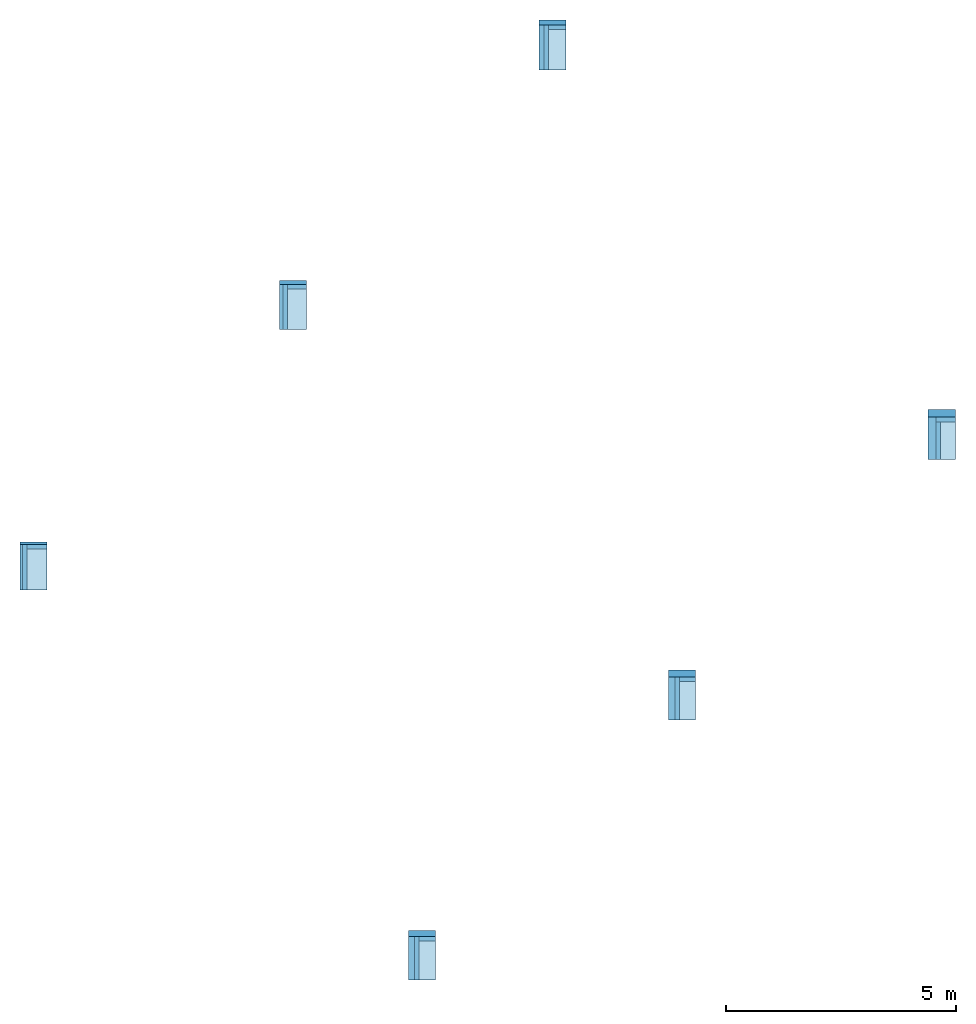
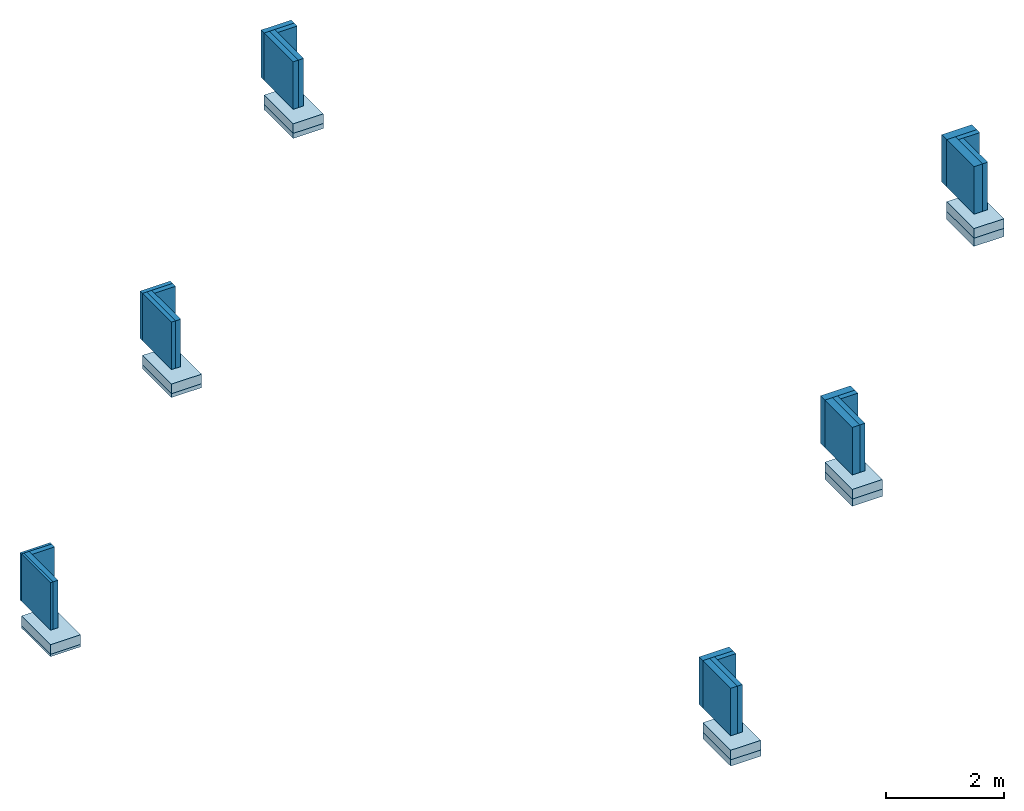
# One storey: 24 walls, 12 slabs.
"""IFC2X3 building model written with IfcOpenShell, lengths in millimetres."""

from ifc_helpers import new_model, entity, si_unit, converted_unit, derived_unit, direction, frame, frame_2d, origin, origin_2d_with_axis, place, context, subcontext, project, spatial, rectangle, extrude, material, layer, layer_set, layer_usage, type_object, element, save


model = new_model("IFC2X3")

# Units and contexts
model_context = context("Model", 3, precision=0.01, world=origin(), true_north=direction((6.12303176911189e-17, 1.0)))
context_of_model = context(None, 3, precision=0.01, world=origin(), true_north=direction((6.12303176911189e-17, 1.0)))
body_context = subcontext(model_context, "Body", "Model", "MODEL_VIEW")
ifc_project = project(units=[si_unit("LENGTHUNIT", "METRE", prefix="MILLI"), si_unit("AREAUNIT", "SQUARE_METRE"), si_unit("VOLUMEUNIT", "CUBIC_METRE"), converted_unit("PLANEANGLEUNIT", "DEGREE", entity("IfcRatioMeasure", 0.0174532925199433), si_unit("PLANEANGLEUNIT", "RADIAN"), dimensions=[0, 0, 0, 0, 0, 0, 0]), si_unit("MASSUNIT", "GRAM", prefix="KILO"), si_unit("TIMEUNIT", "SECOND"), si_unit("FREQUENCYUNIT", "HERTZ"), si_unit("THERMODYNAMICTEMPERATUREUNIT", "DEGREE_CELSIUS"), derived_unit("THERMALTRANSMITTANCEUNIT", [(si_unit("MASSUNIT", "GRAM", prefix="KILO"), 1), (si_unit("THERMODYNAMICTEMPERATUREUNIT", "KELVIN"), -1), (si_unit("TIMEUNIT", "SECOND"), -3)]), derived_unit("VOLUMETRICFLOWRATEUNIT", [(si_unit("LENGTHUNIT", "METRE"), 3), (si_unit("TIMEUNIT", "SECOND"), -1)]), si_unit("ELECTRICCURRENTUNIT", "AMPERE"), si_unit("ELECTRICVOLTAGEUNIT", "VOLT"), si_unit("POWERUNIT", "WATT"), si_unit("FORCEUNIT", "NEWTON", prefix="KILO"), si_unit("ILLUMINANCEUNIT", "LUX"), si_unit("LUMINOUSFLUXUNIT", "LUMEN"), si_unit("LUMINOUSINTENSITYUNIT", "CANDELA"), derived_unit("USERDEFINED", [(si_unit("MASSUNIT", "GRAM", prefix="KILO"), -1), (si_unit("LENGTHUNIT", "METRE"), -2), (si_unit("TIMEUNIT", "SECOND"), 3), (si_unit("LUMINOUSFLUXUNIT", "LUMEN"), 1)]), derived_unit("LINEARVELOCITYUNIT", [(si_unit("LENGTHUNIT", "METRE"), 1), (si_unit("TIMEUNIT", "SECOND"), -1)]), si_unit("PRESSUREUNIT", "PASCAL"), derived_unit("USERDEFINED", [(si_unit("LENGTHUNIT", "METRE"), -2), (si_unit("MASSUNIT", "GRAM", prefix="KILO"), 1), (si_unit("TIMEUNIT", "SECOND"), -2)])], contexts=[model_context, context_of_model])

# Site, building, storey
site_placement = place(None, origin())
site = spatial("IfcSite", under=ifc_project, at=site_placement, Name="Default", CompositionType="ELEMENT")
building_placement = place(site_placement, origin())
building = spatial("IfcBuilding", under=site, at=building_placement, CompositionType="ELEMENT")
storey_placement = place(building_placement, origin())
storey = spatial("IfcBuildingStorey", under=building, at=storey_placement, Name="00 begane grond", CompositionType="ELEMENT", Elevation=-2.77069864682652e-11)

# Slabs
ifc_material_1 = material(Name="Heraklith® | Herafoam - PIR (0,0215)")
ifc_layer_1 = layer(ifc_material_1, 40.0)
ifc_material_2 = material(Name="Heraklith® | Herafoam - Houtwollaag - 985x590mm")
ifc_layer_2 = layer(ifc_material_2, 10.0)
ifc_layer_set_1 = layer_set([ifc_layer_1, ifc_layer_2], Name="Floor:NLRS_23_FL_Heraklith Herafoam 50x985x590mm")
ifc_layer_usage_1 = layer_usage(ifc_layer_set_1, "AXIS3", "POSITIVE", 0.0)
slab_1_placement = place(storey_placement, origin())
element("IfcSlab", 1, at=slab_1_placement, inside=storey, material=ifc_layer_usage_1, Name="Floor:NLRS_23_FL_Heraklith Herafoam 50x985x590mm", ObjectType="Floor:NLRS_23_FL_Heraklith Herafoam 50x985x590mm", PredefinedType="FLOOR", context=body_context, shape_type="SweptSolid", body=[
    extrude(rectangle(XDim=985.0, YDim=590.0, at=origin_2d_with_axis()), frame((295.0, 492.499999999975, -500.0), z_axis=(0.0, 0.0, -1.0), x_axis=(0.0, 1.0, 0.0)), (0.0, 0.0, 1.0), 50.0),
])
ifc_material_3 = material(Name="Heraklith® | Herafoam - PIR (0,0222)")
ifc_layer_3 = layer(ifc_material_3, 30.0)
ifc_material_4 = material(Name="Heraklith® | Herafoam - PIR (0,0275)")
ifc_layer_4 = layer(ifc_material_4, 40.0)
ifc_layer_5 = layer(ifc_material_2, 10.0)
ifc_layer_set_2 = layer_set([ifc_layer_3, ifc_layer_4, ifc_layer_5], Name="Floor:NLRS_23_FL_Heraklith Herafoam 80x985x590mm")
ifc_layer_usage_2 = layer_usage(ifc_layer_set_2, "AXIS3", "POSITIVE", 0.0)
slab_2_placement = place(storey_placement, origin())
element("IfcSlab", 2, at=slab_2_placement, inside=storey, material=ifc_layer_usage_2, Name="Floor:NLRS_23_FL_Heraklith Herafoam 80x985x590mm", ObjectType="Floor:NLRS_23_FL_Heraklith Herafoam 80x985x590mm", PredefinedType="FLOOR", context=body_context, shape_type="SweptSolid", body=[
    extrude(rectangle(XDim=985.0, YDim=589.999999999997, at=frame_2d((5.6843418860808e-13, 1.08002495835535e-12), x_axis=(1.0, 0.0))), frame((5936.85424949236, 6149.35424949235, -500.0), z_axis=(0.0, 0.0, -1.0), x_axis=(0.0, 1.0, 0.0)), (0.0, 0.0, 1.0), 80.0),
])
ifc_layer_6 = layer(ifc_material_1, 55.0)
ifc_layer_7 = layer(ifc_material_4, 40.0)
ifc_layer_8 = layer(ifc_material_2, 10.0)
ifc_layer_set_3 = layer_set([ifc_layer_6, ifc_layer_7, ifc_layer_8], Name="Floor:NLRS_23_FL_Heraklith Herafoam 105x985x590mm")
ifc_layer_usage_3 = layer_usage(ifc_layer_set_3, "AXIS3", "POSITIVE", 0.0)
slab_3_placement = place(storey_placement, origin())
element("IfcSlab", 3, at=slab_3_placement, inside=storey, material=ifc_layer_usage_3, Name="Floor:NLRS_23_FL_Heraklith Herafoam 105x985x590mm", ObjectType="Floor:NLRS_23_FL_Heraklith Herafoam 105x985x590mm", PredefinedType="FLOOR", context=body_context, shape_type="SweptSolid", body=[
    extrude(rectangle(XDim=985.000000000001, YDim=590.0, at=origin_2d_with_axis()), frame((11581.2084989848, 11793.7084989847, -500.0), z_axis=(0.0, 0.0, -1.0), x_axis=(0.0, 1.0, 0.0)), (0.0, 0.0, 1.0), 105.0),
])
ifc_layer_9 = layer(ifc_material_1, 80.0)
ifc_layer_10 = layer(ifc_material_4, 40.0)
ifc_layer_11 = layer(ifc_material_2, 10.0)
ifc_layer_set_4 = layer_set([ifc_layer_9, ifc_layer_10, ifc_layer_11], Name="Floor:NLRS_23_FL_Heraklith Herafoam 130x985x590mm")
ifc_layer_usage_4 = layer_usage(ifc_layer_set_4, "AXIS3", "POSITIVE", 0.0)
slab_4_placement = place(storey_placement, origin())
element("IfcSlab", 4, at=slab_4_placement, inside=storey, material=ifc_layer_usage_4, Name="Floor:NLRS_23_FL_Heraklith Herafoam 130x985x590mm", ObjectType="Floor:NLRS_23_FL_Heraklith Herafoam 130x985x590mm", PredefinedType="FLOOR", context=body_context, shape_type="SweptSolid", body=[
    extrude(rectangle(XDim=945.00000000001, YDim=590.0, at=origin_2d_with_axis()), frame((8740.28137423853, -8012.78137423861, -500.0), z_axis=(0.0, 0.0, -1.0), x_axis=(0.0, 1.0, 0.0)), (0.0, 0.0, 1.0), 130.0),
])
ifc_layer_12 = layer(ifc_material_1, 100.0)
ifc_layer_13 = layer(ifc_material_4, 40.0)
ifc_layer_14 = layer(ifc_material_2, 10.0)
ifc_layer_set_5 = layer_set([ifc_layer_12, ifc_layer_13, ifc_layer_14], Name="Floor:NLRS_23_FL_Heraklith Herafoam 150x985x590mm")
ifc_layer_usage_5 = layer_usage(ifc_layer_set_5, "AXIS3", "POSITIVE", 0.0)
slab_5_placement = place(storey_placement, origin())
element("IfcSlab", 5, at=slab_5_placement, inside=storey, material=ifc_layer_usage_5, Name="Floor:NLRS_23_FL_Heraklith Herafoam 150x985x590mm", ObjectType="Floor:NLRS_23_FL_Heraklith Herafoam 150x985x590mm", PredefinedType="FLOOR", context=body_context, shape_type="SweptSolid", body=[
    extrude(rectangle(XDim=935.000000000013, YDim=590.0, at=frame_2d((1.13686837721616e-13, -2.1600499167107e-12), x_axis=(1.0, 0.0))), frame((14392.1356237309, -2360.92712474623, -500.0), z_axis=(0.0, 0.0, -1.0), x_axis=(0.0, 1.0, 0.0)), (0.0, 0.0, 1.0), 150.0),
])
ifc_layer_15 = layer(ifc_material_1, 120.0)
ifc_layer_16 = layer(ifc_material_4, 40.0)
ifc_layer_17 = layer(ifc_material_2, 10.0)
ifc_layer_set_6 = layer_set([ifc_layer_15, ifc_layer_16, ifc_layer_17], Name="Floor:NLRS_23_FL_Heraklith Herafoam 170x985x590mm")
ifc_layer_usage_6 = layer_usage(ifc_layer_set_6, "AXIS3", "POSITIVE", 0.0)
slab_6_placement = place(storey_placement, origin())
element("IfcSlab", 6, at=slab_6_placement, inside=storey, material=ifc_layer_usage_6, Name="Floor:NLRS_23_FL_Heraklith Herafoam 170x985x590mm", ObjectType="Floor:NLRS_23_FL_Heraklith Herafoam 170x985x590mm", PredefinedType="FLOOR", context=body_context, shape_type="SweptSolid", body=[
    extrude(rectangle(XDim=925.000000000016, YDim=589.999999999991, at=frame_2d((0.0, 2.1600499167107e-12), x_axis=(1.0, 0.0))), frame((20043.9898732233, 3290.92712474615, -500.0), z_axis=(0.0, 0.0, -1.0), x_axis=(0.0, 1.0, 0.0)), (0.0, 0.0, 1.0), 170.0),
])
ifc_material_5 = material(Name="Concrete, Precast Panels")
ifc_layer_18 = layer(ifc_material_5, 200.0)
ifc_layer_set_7 = layer_set([ifc_layer_18], Name="Floor:Generic 200mm")
ifc_layer_usage_7 = layer_usage(ifc_layer_set_7, "AXIS3", "POSITIVE", 0.0)
slab_7_placement = place(storey_placement, origin())
element("IfcSlab", 7, at=slab_7_placement, inside=storey, material=ifc_layer_usage_7, Name="Floor:Generic 200mm", ObjectType="Floor:Generic 200mm", PredefinedType="FLOOR", context=body_context, shape_type="SweptSolid", body=[
    extrude(rectangle(XDim=985.000000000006, YDim=590.0, at=origin_2d_with_axis()), frame((295.0, 492.499999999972, -300.0), z_axis=(0.0, 0.0, -1.0), x_axis=(0.0, 1.0, 0.0)), (0.0, 0.0, 1.0), 200.0),
])
ifc_layer_usage_8 = layer_usage(ifc_layer_set_7, "AXIS3", "POSITIVE", 0.0)
slab_8_placement = place(storey_placement, origin())
element("IfcSlab", 8, at=slab_8_placement, inside=storey, material=ifc_layer_usage_8, Name="Floor:Generic 200mm", ObjectType="Floor:Generic 200mm", PredefinedType="FLOOR", context=body_context, shape_type="SweptSolid", body=[
    extrude(rectangle(XDim=985.0, YDim=589.999999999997, at=frame_2d((5.6843418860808e-13, -5.40012479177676e-13), x_axis=(1.0, 0.0))), frame((5936.85424949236, 6149.35424949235, -300.0), z_axis=(0.0, 0.0, -1.0), x_axis=(0.0, 1.0, 0.0)), (0.0, 0.0, 1.0), 200.0),
])
ifc_layer_usage_9 = layer_usage(ifc_layer_set_7, "AXIS3", "POSITIVE", 0.0)
slab_9_placement = place(storey_placement, origin())
element("IfcSlab", 9, at=slab_9_placement, inside=storey, material=ifc_layer_usage_9, Name="Floor:Generic 200mm", ObjectType="Floor:Generic 200mm", PredefinedType="FLOOR", context=body_context, shape_type="SweptSolid", body=[
    extrude(rectangle(XDim=985.000000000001, YDim=590.0, at=origin_2d_with_axis()), frame((11581.2084989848, 11793.7084989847, -300.0), z_axis=(0.0, 0.0, -1.0), x_axis=(0.0, 1.0, 0.0)), (0.0, 0.0, 1.0), 200.0),
])
ifc_layer_usage_10 = layer_usage(ifc_layer_set_7, "AXIS3", "POSITIVE", 0.0)
slab_10_placement = place(storey_placement, origin())
element("IfcSlab", 10, at=slab_10_placement, inside=storey, material=ifc_layer_usage_10, Name="Floor:Generic 200mm", ObjectType="Floor:Generic 200mm", PredefinedType="FLOOR", context=body_context, shape_type="SweptSolid", body=[
    extrude(rectangle(XDim=925.000000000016, YDim=589.999999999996, at=origin_2d_with_axis()), frame((20043.9898732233, 3290.92712474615, -300.0), z_axis=(0.0, 0.0, -1.0), x_axis=(0.0, 1.0, 0.0)), (0.0, 0.0, 1.0), 200.0),
])
ifc_layer_usage_11 = layer_usage(ifc_layer_set_7, "AXIS3", "POSITIVE", 0.0)
slab_11_placement = place(storey_placement, origin())
element("IfcSlab", 11, at=slab_11_placement, inside=storey, material=ifc_layer_usage_11, Name="Floor:Generic 200mm", ObjectType="Floor:Generic 200mm", PredefinedType="FLOOR", context=body_context, shape_type="SweptSolid", body=[
    extrude(rectangle(XDim=935.000000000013, YDim=590.0, at=frame_2d((1.13686837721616e-13, -2.1600499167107e-12), x_axis=(1.0, 0.0))), frame((14392.1356237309, -2360.92712474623, -300.0), z_axis=(0.0, 0.0, -1.0), x_axis=(0.0, 1.0, 0.0)), (0.0, 0.0, 1.0), 200.0),
])
ifc_layer_usage_12 = layer_usage(ifc_layer_set_7, "AXIS3", "POSITIVE", 0.0)
slab_12_placement = place(storey_placement, origin())
element("IfcSlab", 12, at=slab_12_placement, inside=storey, material=ifc_layer_usage_12, Name="Floor:Generic 200mm", ObjectType="Floor:Generic 200mm", PredefinedType="FLOOR", context=body_context, shape_type="SweptSolid", body=[
    extrude(rectangle(XDim=945.00000000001, YDim=590.0, at=origin_2d_with_axis()), frame((8740.28137423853, -8012.78137423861, -300.0), z_axis=(0.0, 0.0, -1.0), x_axis=(0.0, 1.0, 0.0)), (0.0, 0.0, 1.0), 200.0),
])

# Walls
ifc_layer_19 = layer(ifc_material_4, 40.0)
ifc_layer_20 = layer(ifc_material_2, 10.0)
ifc_layer_set_8 = layer_set([ifc_layer_19, ifc_layer_20], Name="Basic Wall:NLRS_42_WA_Heraklith Herafoam 50x985x590mm")
ifc_layer_usage_13 = layer_usage(ifc_layer_set_8, "AXIS2", "NEGATIVE", 25.0)
wall_type_1 = type_object("IfcWallType", Name="Basic Wall:NLRS_42_WA_Heraklith Herafoam 50x985x590mm", PredefinedType="STANDARD", material=ifc_layer_set_8)
wall_1_placement = place(storey_placement, frame((25.0, 985.0, 0.0), z_axis=(0.0, 0.0, 1.0), x_axis=(0.0, -1.0, 0.0)))
element("IfcWallStandardCase", 13, at=wall_1_placement, inside=storey, type_object=wall_type_1, material=ifc_layer_usage_13, Name="Basic Wall:NLRS_42_WA_Heraklith Herafoam 50x985x590mm", ObjectType="Basic Wall:NLRS_42_WA_Heraklith Herafoam 50x985x590mm", context=body_context, shape_type="SweptSolid", body=[
    extrude(rectangle(XDim=985.000000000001, YDim=50.0, at=frame_2d((492.5, 1.77635683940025e-15), x_axis=(-1.0, 0.0))), origin(), (0.0, 0.0, 1.0), 985.000000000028),
])
ifc_layer_21 = layer(ifc_material_4, 40.0)
ifc_layer_22 = layer(ifc_material_2, 10.0)
ifc_layer_set_9 = layer_set([ifc_layer_21, ifc_layer_22], Name="Basic Wall:NLRS_41_WA_Heraklith Herafoam 50x985x590mm")
ifc_layer_usage_14 = layer_usage(ifc_layer_set_9, "AXIS2", "POSITIVE", -25.0)
wall_type_2 = type_object("IfcWallType", Name="Basic Wall:NLRS_41_WA_Heraklith Herafoam 50x985x590mm", PredefinedType="STANDARD", material=ifc_layer_set_9)
wall_2_placement = place(storey_placement, frame((0.0, 1010.0, 0.0)))
element("IfcWallStandardCase", 14, at=wall_2_placement, inside=storey, type_object=wall_type_2, material=ifc_layer_usage_14, Name="Basic Wall:NLRS_41_WA_Heraklith Herafoam 50x985x590mm", ObjectType="Basic Wall:NLRS_41_WA_Heraklith Herafoam 50x985x590mm", context=body_context, shape_type="SweptSolid", body=[
    extrude(rectangle(XDim=590.000000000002, YDim=50.0, at=frame_2d((295.000000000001, -1.59872115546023e-14), x_axis=(-1.0, 0.0))), origin(), (0.0, 0.0, 1.0), 985.000000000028),
])
ifc_layer_23 = layer(ifc_material_3, 30.0)
ifc_layer_24 = layer(ifc_material_4, 40.0)
ifc_layer_25 = layer(ifc_material_2, 10.0)
ifc_layer_set_10 = layer_set([ifc_layer_23, ifc_layer_24, ifc_layer_25], Name="Basic Wall:NLRS_42_WA_Heraklith Herafoam 80x985x590mm")
ifc_layer_usage_15 = layer_usage(ifc_layer_set_10, "AXIS2", "NEGATIVE", 40.0)
wall_type_3 = type_object("IfcWallType", Name="Basic Wall:NLRS_42_WA_Heraklith Herafoam 80x985x590mm", PredefinedType="STANDARD", material=ifc_layer_set_10)
wall_3_placement = place(storey_placement, frame((5681.85424949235, 6641.85424949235, 0.0), z_axis=(0.0, 0.0, 1.0), x_axis=(0.0, -1.0, 0.0)))
element("IfcWallStandardCase", 15, at=wall_3_placement, inside=storey, type_object=wall_type_3, material=ifc_layer_usage_15, Name="Basic Wall:NLRS_42_WA_Heraklith Herafoam 80x985x590mm", ObjectType="Basic Wall:NLRS_42_WA_Heraklith Herafoam 80x985x590mm", context=body_context, shape_type="SweptSolid", body=[
    extrude(rectangle(XDim=985.000000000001, YDim=79.9999999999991, at=frame_2d((492.500000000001, 2.52242671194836e-13), x_axis=(-1.0, 0.0))), origin(), (0.0, 0.0, 1.0), 985.000000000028),
])
ifc_layer_26 = layer(ifc_material_3, 30.0)
ifc_layer_27 = layer(ifc_material_4, 40.0)
ifc_layer_28 = layer(ifc_material_2, 10.0)
ifc_layer_set_11 = layer_set([ifc_layer_26, ifc_layer_27, ifc_layer_28], Name="Basic Wall:NLRS_41_WA_Heraklith Herafoam 80x985x590mm")
ifc_layer_usage_16 = layer_usage(ifc_layer_set_11, "AXIS2", "POSITIVE", -40.0)
wall_type_4 = type_object("IfcWallType", Name="Basic Wall:NLRS_41_WA_Heraklith Herafoam 80x985x590mm", PredefinedType="STANDARD", material=ifc_layer_set_11)
wall_4_placement = place(storey_placement, frame((5641.85424949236, 6681.85424949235, 0.0)))
element("IfcWallStandardCase", 16, at=wall_4_placement, inside=storey, type_object=wall_type_4, material=ifc_layer_usage_16, Name="Basic Wall:NLRS_41_WA_Heraklith Herafoam 80x985x590mm", ObjectType="Basic Wall:NLRS_41_WA_Heraklith Herafoam 80x985x590mm", context=body_context, shape_type="SweptSolid", body=[
    extrude(rectangle(XDim=590.000000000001, YDim=79.9999999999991, at=frame_2d((295.000000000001, 4.58300064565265e-13), x_axis=(-1.0, 0.0))), origin(), (0.0, 0.0, 1.0), 985.000000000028),
])
ifc_layer_29 = layer(ifc_material_1, 55.0)
ifc_layer_30 = layer(ifc_material_4, 40.0)
ifc_layer_31 = layer(ifc_material_2, 10.0)
ifc_layer_set_12 = layer_set([ifc_layer_29, ifc_layer_30, ifc_layer_31], Name="Basic Wall:NLRS_42_WA_Heraklith Herafoam 105x985x590mm")
ifc_layer_usage_17 = layer_usage(ifc_layer_set_12, "AXIS2", "NEGATIVE", 52.5)
wall_type_5 = type_object("IfcWallType", Name="Basic Wall:NLRS_42_WA_Heraklith Herafoam 105x985x590mm", PredefinedType="STANDARD", material=ifc_layer_set_12)
wall_5_placement = place(storey_placement, frame((11338.7084989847, 12286.2084989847, 0.0), z_axis=(0.0, 0.0, 1.0), x_axis=(0.0, -1.0, 0.0)))
element("IfcWallStandardCase", 17, at=wall_5_placement, inside=storey, type_object=wall_type_5, material=ifc_layer_usage_17, Name="Basic Wall:NLRS_42_WA_Heraklith Herafoam 105x985x590mm", ObjectType="Basic Wall:NLRS_42_WA_Heraklith Herafoam 105x985x590mm", context=body_context, shape_type="SweptSolid", body=[
    extrude(rectangle(XDim=985.000000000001, YDim=105.000000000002, at=frame_2d((492.500000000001, -2.91322521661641e-13), x_axis=(-1.0, 0.0))), origin(), (0.0, 0.0, 1.0), 985.000000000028),
])
ifc_layer_32 = layer(ifc_material_1, 55.0)
ifc_layer_33 = layer(ifc_material_4, 40.0)
ifc_layer_34 = layer(ifc_material_2, 10.0)
ifc_layer_set_13 = layer_set([ifc_layer_32, ifc_layer_33, ifc_layer_34], Name="Basic Wall:NLRS_41_WA_Heraklith Herafoam 105x985x590mm")
ifc_layer_usage_18 = layer_usage(ifc_layer_set_13, "AXIS2", "POSITIVE", -52.5)
wall_type_6 = type_object("IfcWallType", Name="Basic Wall:NLRS_41_WA_Heraklith Herafoam 105x985x590mm", PredefinedType="STANDARD", material=ifc_layer_set_13)
wall_6_placement = place(storey_placement, frame((11286.2084989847, 12338.7084989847, 0.0)))
element("IfcWallStandardCase", 18, at=wall_6_placement, inside=storey, type_object=wall_type_6, material=ifc_layer_usage_18, Name="Basic Wall:NLRS_41_WA_Heraklith Herafoam 105x985x590mm", ObjectType="Basic Wall:NLRS_41_WA_Heraklith Herafoam 105x985x590mm", context=body_context, shape_type="SweptSolid", body=[
    extrude(rectangle(XDim=590.0, YDim=105.000000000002, at=frame_2d((295.0, -8.5265128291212e-14), x_axis=(-1.0, 0.0))), origin(), (0.0, 0.0, 1.0), 985.000000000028),
])
ifc_layer_35 = layer(ifc_material_1, 80.0)
ifc_layer_36 = layer(ifc_material_4, 40.0)
ifc_layer_37 = layer(ifc_material_2, 10.0)
ifc_layer_set_14 = layer_set([ifc_layer_35, ifc_layer_36, ifc_layer_37], Name="Basic Wall:NLRS_42_WA_Heraklith Herafoam 130x985x590mm")
ifc_layer_usage_19 = layer_usage(ifc_layer_set_14, "AXIS2", "NEGATIVE", 65.0)
wall_type_7 = type_object("IfcWallType", Name="Basic Wall:NLRS_42_WA_Heraklith Herafoam 130x985x590mm", PredefinedType="STANDARD", material=ifc_layer_set_14)
wall_7_placement = place(storey_placement, frame((8510.28137423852, -7540.28137423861, 0.0), z_axis=(0.0, 0.0, 1.0), x_axis=(0.0, -1.0, 0.0)))
element("IfcWallStandardCase", 19, at=wall_7_placement, inside=storey, type_object=wall_type_7, material=ifc_layer_usage_19, Name="Basic Wall:NLRS_42_WA_Heraklith Herafoam 130x985x590mm", ObjectType="Basic Wall:NLRS_42_WA_Heraklith Herafoam 130x985x590mm", context=body_context, shape_type="SweptSolid", body=[
    extrude(rectangle(XDim=945.000000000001, YDim=130.000000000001, at=frame_2d((472.5, 2.20268248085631e-13), x_axis=(-1.0, 0.0))), origin(), (0.0, 0.0, 1.0), 985.000000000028),
])
ifc_layer_38 = layer(ifc_material_1, 80.0)
ifc_layer_39 = layer(ifc_material_4, 40.0)
ifc_layer_40 = layer(ifc_material_2, 10.0)
ifc_layer_set_15 = layer_set([ifc_layer_38, ifc_layer_39, ifc_layer_40], Name="Basic Wall:NLRS_41_WA_Heraklith Herafoam 130x985x590mm")
ifc_layer_usage_20 = layer_usage(ifc_layer_set_15, "AXIS2", "POSITIVE", -65.0)
wall_type_8 = type_object("IfcWallType", Name="Basic Wall:NLRS_41_WA_Heraklith Herafoam 130x985x590mm", PredefinedType="STANDARD", material=ifc_layer_set_15)
wall_8_placement = place(storey_placement, frame((8445.28137423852, -7475.28137423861, 0.0)))
element("IfcWallStandardCase", 20, at=wall_8_placement, inside=storey, type_object=wall_type_8, material=ifc_layer_usage_20, Name="Basic Wall:NLRS_41_WA_Heraklith Herafoam 130x985x590mm", ObjectType="Basic Wall:NLRS_41_WA_Heraklith Herafoam 130x985x590mm", context=body_context, shape_type="SweptSolid", body=[
    extrude(rectangle(XDim=590.0, YDim=130.000000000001, at=frame_2d((295.0, 3.5527136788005e-14), x_axis=(-1.0, 0.0))), origin(), (0.0, 0.0, 1.0), 985.000000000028),
])
ifc_layer_41 = layer(ifc_material_1, 100.0)
ifc_layer_42 = layer(ifc_material_4, 40.0)
ifc_layer_43 = layer(ifc_material_2, 10.0)
ifc_layer_set_16 = layer_set([ifc_layer_41, ifc_layer_42, ifc_layer_43], Name="Basic Wall:NLRS_41_WA_Heraklith Herafoam 150x985x590mm")
ifc_layer_usage_21 = layer_usage(ifc_layer_set_16, "AXIS2", "POSITIVE", -75.0)
wall_type_9 = type_object("IfcWallType", Name="Basic Wall:NLRS_41_WA_Heraklith Herafoam 150x985x590mm", PredefinedType="STANDARD", material=ifc_layer_set_16)
wall_9_placement = place(storey_placement, frame((14097.1356237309, -1818.42712474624, 0.0)))
element("IfcWallStandardCase", 21, at=wall_9_placement, inside=storey, type_object=wall_type_9, material=ifc_layer_usage_21, Name="Basic Wall:NLRS_41_WA_Heraklith Herafoam 150x985x590mm", ObjectType="Basic Wall:NLRS_41_WA_Heraklith Herafoam 150x985x590mm", context=body_context, shape_type="SweptSolid", body=[
    extrude(rectangle(XDim=590.0, YDim=150.0, at=frame_2d((295.0, 1.4210854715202e-14), x_axis=(-1.0, 0.0))), origin(), (0.0, 0.0, 1.0), 985.000000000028),
])
ifc_layer_44 = layer(ifc_material_1, 100.0)
ifc_layer_45 = layer(ifc_material_4, 40.0)
ifc_layer_46 = layer(ifc_material_2, 10.0)
ifc_layer_set_17 = layer_set([ifc_layer_44, ifc_layer_45, ifc_layer_46], Name="Basic Wall:NLRS_42_WA_Heraklith Herafoam 150x985x590mm")
ifc_layer_usage_22 = layer_usage(ifc_layer_set_17, "AXIS2", "NEGATIVE", 75.0)
wall_type_10 = type_object("IfcWallType", Name="Basic Wall:NLRS_42_WA_Heraklith Herafoam 150x985x590mm", PredefinedType="STANDARD", material=ifc_layer_set_17)
wall_10_placement = place(storey_placement, frame((14172.1356237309, -1893.42712474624, 0.0), z_axis=(0.0, 0.0, 1.0), x_axis=(0.0, -1.0, 0.0)))
element("IfcWallStandardCase", 22, at=wall_10_placement, inside=storey, type_object=wall_type_10, material=ifc_layer_usage_22, Name="Basic Wall:NLRS_42_WA_Heraklith Herafoam 150x985x590mm", ObjectType="Basic Wall:NLRS_42_WA_Heraklith Herafoam 150x985x590mm", context=body_context, shape_type="SweptSolid", body=[
    extrude(rectangle(XDim=934.999999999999, YDim=150.000000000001, at=frame_2d((467.5, -3.26849658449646e-13), x_axis=(-1.0, 0.0))), origin(), (0.0, 0.0, 1.0), 985.000000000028),
])
ifc_layer_47 = layer(ifc_material_1, 120.0)
ifc_layer_48 = layer(ifc_material_4, 40.0)
ifc_layer_49 = layer(ifc_material_2, 10.0)
ifc_layer_set_18 = layer_set([ifc_layer_47, ifc_layer_48, ifc_layer_49], Name="Basic Wall:NLRS_41_WA_Heraklith Herafoam 170x985x590mm")
ifc_layer_usage_23 = layer_usage(ifc_layer_set_18, "AXIS2", "POSITIVE", -85.0)
wall_type_11 = type_object("IfcWallType", Name="Basic Wall:NLRS_41_WA_Heraklith Herafoam 170x985x590mm", PredefinedType="STANDARD", material=ifc_layer_set_18)
wall_11_placement = place(storey_placement, frame((19748.9898732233, 3838.42712474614, 0.0)))
element("IfcWallStandardCase", 23, at=wall_11_placement, inside=storey, type_object=wall_type_11, material=ifc_layer_usage_23, Name="Basic Wall:NLRS_41_WA_Heraklith Herafoam 170x985x590mm", ObjectType="Basic Wall:NLRS_41_WA_Heraklith Herafoam 170x985x590mm", context=body_context, shape_type="SweptSolid", body=[
    extrude(rectangle(XDim=590.0, YDim=170.0, at=frame_2d((295.0, 7.105427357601e-15), x_axis=(-1.0, 0.0))), origin(), (0.0, 0.0, 1.0), 985.000000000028),
])
ifc_layer_50 = layer(ifc_material_1, 120.0)
ifc_layer_51 = layer(ifc_material_4, 40.0)
ifc_layer_52 = layer(ifc_material_2, 10.0)
ifc_layer_set_19 = layer_set([ifc_layer_50, ifc_layer_51, ifc_layer_52], Name="Basic Wall:NLRS_42_WA_Heraklith Herafoam 170x985x590mm")
ifc_layer_usage_24 = layer_usage(ifc_layer_set_19, "AXIS2", "NEGATIVE", 85.0)
wall_type_12 = type_object("IfcWallType", Name="Basic Wall:NLRS_42_WA_Heraklith Herafoam 170x985x590mm", PredefinedType="STANDARD", material=ifc_layer_set_19)
wall_12_placement = place(storey_placement, frame((19833.9898732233, 3753.42712474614, 0.0), z_axis=(0.0, 0.0, 1.0), x_axis=(0.0, -1.0, 0.0)))
element("IfcWallStandardCase", 24, at=wall_12_placement, inside=storey, type_object=wall_type_12, material=ifc_layer_usage_24, Name="Basic Wall:NLRS_42_WA_Heraklith Herafoam 170x985x590mm", ObjectType="Basic Wall:NLRS_42_WA_Heraklith Herafoam 170x985x590mm", context=body_context, shape_type="SweptSolid", body=[
    extrude(rectangle(XDim=924.999999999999, YDim=169.999999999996, at=frame_2d((462.5, -1.4210854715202e-12), x_axis=(-1.0, 0.0))), origin(), (0.0, 0.0, 1.0), 985.000000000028),
])
ifc_layer_53 = layer(ifc_material_5, 100.0)
ifc_layer_set_20 = layer_set([ifc_layer_53], Name="Basic Wall:Generic_100mm")
ifc_layer_usage_25 = layer_usage(ifc_layer_set_20, "AXIS2", "NEGATIVE", 50.0)
wall_type_13 = type_object("IfcWallType", Name="Basic Wall:Generic_100mm", PredefinedType="STANDARD", material=ifc_layer_set_20)
wall_13_placement = place(storey_placement, frame((100.0, 0.0, 0.0), z_axis=(0.0, 0.0, 1.0), x_axis=(0.0, 1.0, 0.0)))
element("IfcWallStandardCase", 25, at=wall_13_placement, inside=storey, type_object=wall_type_13, material=ifc_layer_usage_25, Name="Basic Wall:Generic_100mm", ObjectType="Basic Wall:Generic_100mm", context=body_context, shape_type="SweptSolid", body=[
    extrude(rectangle(XDim=985.0, YDim=100.0, at=frame_2d((492.5, 0.0), x_axis=(-1.0, 0.0))), origin(), (0.0, 0.0, 1.0), 985.000000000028),
])
ifc_layer_usage_26 = layer_usage(ifc_layer_set_20, "AXIS2", "POSITIVE", -50.0)
wall_14_placement = place(storey_placement, frame((590.0, 935.0, 0.0), z_axis=(0.0, 0.0, 1.0), x_axis=(-1.0, 0.0, 0.0)))
element("IfcWallStandardCase", 26, at=wall_14_placement, inside=storey, type_object=wall_type_13, material=ifc_layer_usage_26, Name="Basic Wall:Generic_100mm", ObjectType="Basic Wall:Generic_100mm", context=body_context, shape_type="SweptSolid", body=[
    extrude(rectangle(XDim=439.999999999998, YDim=100.0, at=frame_2d((219.999999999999, 0.0), x_axis=(-1.0, 0.0))), origin(), (0.0, 0.0, 1.0), 985.000000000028),
])
ifc_layer_usage_27 = layer_usage(ifc_layer_set_20, "AXIS2", "NEGATIVE", 50.0)
wall_15_placement = place(storey_placement, frame((5771.85424949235, 5656.85424949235, 0.0), z_axis=(0.0, 0.0, 1.0), x_axis=(0.0, 1.0, 0.0)))
element("IfcWallStandardCase", 27, at=wall_15_placement, inside=storey, type_object=wall_type_13, material=ifc_layer_usage_27, Name="Basic Wall:Generic_100mm", ObjectType="Basic Wall:Generic_100mm", context=body_context, shape_type="SweptSolid", body=[
    extrude(rectangle(XDim=985.000000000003, YDim=99.9999999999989, at=frame_2d((492.500000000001, 5.32907051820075e-14), x_axis=(-1.0, 0.0))), origin(), (0.0, 0.0, 1.0), 985.000000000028),
])
ifc_layer_usage_28 = layer_usage(ifc_layer_set_20, "AXIS2", "POSITIVE", -50.0)
wall_16_placement = place(storey_placement, frame((6231.85424949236, 6591.85424949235, 0.0), z_axis=(0.0, 0.0, 1.0), x_axis=(-1.0, 0.0, 0.0)))
element("IfcWallStandardCase", 28, at=wall_16_placement, inside=storey, type_object=wall_type_13, material=ifc_layer_usage_28, Name="Basic Wall:Generic_100mm", ObjectType="Basic Wall:Generic_100mm", context=body_context, shape_type="SweptSolid", body=[
    extrude(rectangle(XDim=410.000000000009, YDim=99.9999999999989, at=frame_2d((205.000000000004, 0.0), x_axis=(-1.0, 0.0))), origin(), (0.0, 0.0, 1.0), 985.000000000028),
])
ifc_layer_usage_29 = layer_usage(ifc_layer_set_20, "AXIS2", "NEGATIVE", 50.0)
wall_17_placement = place(storey_placement, frame((11441.2084989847, 11301.2084989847, 0.0), z_axis=(0.0, 0.0, 1.0), x_axis=(0.0, 1.0, 0.0)))
element("IfcWallStandardCase", 29, at=wall_17_placement, inside=storey, type_object=wall_type_13, material=ifc_layer_usage_29, Name="Basic Wall:Generic_100mm", ObjectType="Basic Wall:Generic_100mm", context=body_context, shape_type="SweptSolid", body=[
    extrude(rectangle(XDim=985.000000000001, YDim=99.9999999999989, at=frame_2d((492.500000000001, 6.3948846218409e-14), x_axis=(-1.0, 0.0))), origin(), (0.0, 0.0, 1.0), 985.000000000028),
])
ifc_layer_usage_30 = layer_usage(ifc_layer_set_20, "AXIS2", "POSITIVE", -50.0)
wall_18_placement = place(storey_placement, frame((11876.2084989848, 12236.2084989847, 0.0), z_axis=(0.0, 0.0, 1.0), x_axis=(-1.0, 0.0, 0.0)))
element("IfcWallStandardCase", 30, at=wall_18_placement, inside=storey, type_object=wall_type_13, material=ifc_layer_usage_30, Name="Basic Wall:Generic_100mm", ObjectType="Basic Wall:Generic_100mm", context=body_context, shape_type="SweptSolid", body=[
    extrude(rectangle(XDim=385.000000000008, YDim=99.9999999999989, at=frame_2d((192.500000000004, 0.0), x_axis=(-1.0, 0.0))), origin(), (0.0, 0.0, 1.0), 985.000000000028),
])
ifc_layer_usage_31 = layer_usage(ifc_layer_set_20, "AXIS2", "NEGATIVE", 50.0)
wall_19_placement = place(storey_placement, frame((19968.9898732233, 2828.42712474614, 0.0), z_axis=(0.0, 0.0, 1.0), x_axis=(0.0, 1.0, 0.0)))
element("IfcWallStandardCase", 31, at=wall_19_placement, inside=storey, type_object=wall_type_13, material=ifc_layer_usage_31, Name="Basic Wall:Generic_100mm", ObjectType="Basic Wall:Generic_100mm", context=body_context, shape_type="SweptSolid", body=[
    extrude(rectangle(XDim=825.000000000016, YDim=100.000000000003, at=frame_2d((412.500000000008, -1.4210854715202e-14), x_axis=(-1.0, 0.0))), origin(), (0.0, 0.0, 1.0), 985.000000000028),
])
ifc_layer_usage_32 = layer_usage(ifc_layer_set_20, "AXIS2", "POSITIVE", -50.0)
wall_20_placement = place(storey_placement, frame((20338.9898732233, 3703.42712474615, 0.0), z_axis=(0.0, 0.0, 1.0), x_axis=(-1.0, 0.0, 0.0)))
element("IfcWallStandardCase", 32, at=wall_20_placement, inside=storey, type_object=wall_type_13, material=ifc_layer_usage_32, Name="Basic Wall:Generic_100mm", ObjectType="Basic Wall:Generic_100mm", context=body_context, shape_type="SweptSolid", body=[
    extrude(rectangle(XDim=420.0, YDim=100.0, at=frame_2d((210.0, 0.0), x_axis=(-1.0, 0.0))), origin(), (0.0, 0.0, 1.0), 985.000000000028),
])
ifc_layer_usage_33 = layer_usage(ifc_layer_set_20, "AXIS2", "NEGATIVE", 50.0)
wall_21_placement = place(storey_placement, frame((14297.1356237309, -2828.42712474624, 0.0), z_axis=(0.0, 0.0, 1.0), x_axis=(0.0, 1.0, 0.0)))
element("IfcWallStandardCase", 33, at=wall_21_placement, inside=storey, type_object=wall_type_13, material=ifc_layer_usage_33, Name="Basic Wall:Generic_100mm", ObjectType="Basic Wall:Generic_100mm", context=body_context, shape_type="SweptSolid", body=[
    extrude(rectangle(XDim=935.000000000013, YDim=99.9999999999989, at=frame_2d((467.500000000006, 8.5265128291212e-14), x_axis=(-1.0, 0.0))), origin(), (0.0, 0.0, 1.0), 985.000000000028),
])
ifc_layer_usage_34 = layer_usage(ifc_layer_set_20, "AXIS2", "POSITIVE", -50.0)
wall_22_placement = place(storey_placement, frame((14687.1356237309, -1943.42712474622, 0.0), z_axis=(0.0, 0.0, 1.0), x_axis=(-1.0, 0.0, 0.0)))
element("IfcWallStandardCase", 34, at=wall_22_placement, inside=storey, type_object=wall_type_13, material=ifc_layer_usage_34, Name="Basic Wall:Generic_100mm", ObjectType="Basic Wall:Generic_100mm", context=body_context, shape_type="SweptSolid", body=[
    extrude(rectangle(XDim=339.999999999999, YDim=100.0, at=frame_2d((169.999999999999, 0.0), x_axis=(-1.0, 0.0))), origin(), (0.0, 0.0, 1.0), 985.000000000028),
])
ifc_layer_usage_35 = layer_usage(ifc_layer_set_20, "AXIS2", "NEGATIVE", 50.0)
wall_23_placement = place(storey_placement, frame((8625.28137423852, -8485.28137423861, 0.0), z_axis=(0.0, 0.0, 1.0), x_axis=(0.0, 1.0, 0.0)))
element("IfcWallStandardCase", 35, at=wall_23_placement, inside=storey, type_object=wall_type_13, material=ifc_layer_usage_35, Name="Basic Wall:Generic_100mm", ObjectType="Basic Wall:Generic_100mm", context=body_context, shape_type="SweptSolid", body=[
    extrude(rectangle(XDim=945.000000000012, YDim=99.9999999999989, at=frame_2d((472.500000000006, 4.61852778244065e-14), x_axis=(-1.0, 0.0))), origin(), (0.0, 0.0, 1.0), 985.000000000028),
])
ifc_layer_usage_36 = layer_usage(ifc_layer_set_20, "AXIS2", "POSITIVE", -50.0)
wall_24_placement = place(storey_placement, frame((9035.28137423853, -7590.2813742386, 0.0), z_axis=(0.0, 0.0, 1.0), x_axis=(-1.0, 0.0, 0.0)))
element("IfcWallStandardCase", 36, at=wall_24_placement, inside=storey, type_object=wall_type_13, material=ifc_layer_usage_36, Name="Basic Wall:Generic_100mm", ObjectType="Basic Wall:Generic_100mm", context=body_context, shape_type="SweptSolid", body=[
    extrude(rectangle(XDim=360.000000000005, YDim=99.9999999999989, at=frame_2d((180.000000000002, 0.0), x_axis=(-1.0, 0.0))), origin(), (0.0, 0.0, 1.0), 985.000000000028),
])

save(model, "model.ifc")
